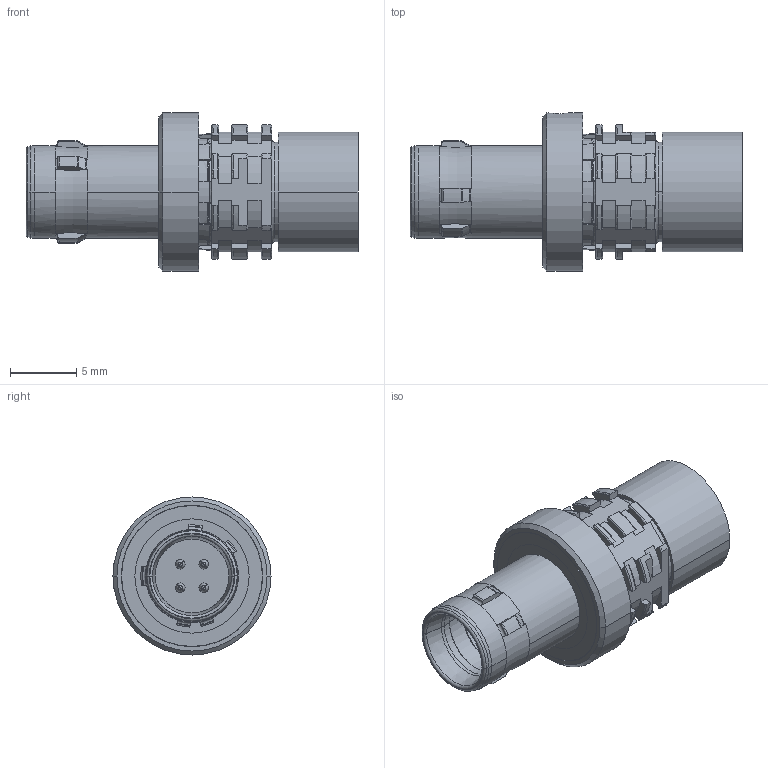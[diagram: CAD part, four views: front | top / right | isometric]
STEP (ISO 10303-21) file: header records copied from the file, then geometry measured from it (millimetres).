
FILE_DESCRIPTION((''),'2;1');
FILE_NAME('A10YAR-P04XFG0-0000','2015-03-02T',('mmeier'),(''),'PRO/ENGINEER BY PARAMETRIC TECHNOLOGY CORPORATION, 2013050','PRO/ENGINEER BY PARAMETRIC TECHNOLOGY CORPORATION, 2013050','');
FILE_SCHEMA(('AUTOMOTIVE_DESIGN { 1 0 10303 214 1 1 1 1 }'));
Length unit declared in the file: millimetre
Products named in the file (1): A10YAR-P04XFG0-0000
Bounding box: 25 x 11.9 x 11.9 mm (x, y, z)
Volume: 968.9 mm3; surface area: 2128.7 mm2
Topology: 2 solids, 2 shells, 586 faces, 1569 edges, 992 vertices
Faces by surface type: plane 190, cylinder 168, torus 133, cone 79, bspline 8, sphere 8
Entity records: 27343 total; most frequent: CARTESIAN_POINT 8872, ORIENTED_EDGE 3106, DIRECTION 3026, EDGE_CURVE 1553, AXIS2_PLACEMENT_3D 1192, VERTEX_POINT 992, VECTOR 642, LINE 642
